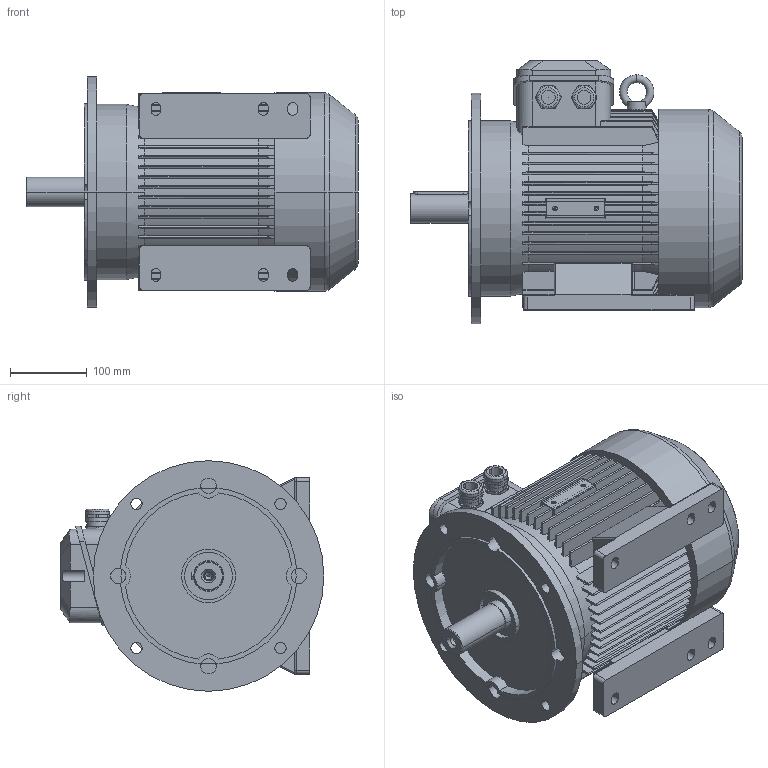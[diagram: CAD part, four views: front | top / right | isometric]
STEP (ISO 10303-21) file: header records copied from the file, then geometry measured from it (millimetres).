
FILE_DESCRIPTION (( 'STEP AP214' ), '1' );
FILE_NAME ('MAP132S6A IM2041 A300 FF265.STEP', '2021-03-08T07:33:57', ( '' ), ( '' ), 'SwSTEP 2.0', 'SolidWorks 2018', '' );
FILE_SCHEMA (( 'AUTOMOTIVE_DESIGN' ));
Length unit declared in the file: millimetre
Products named in the file (1): MAP132S6A IM2041 A300 FF265
Bounding box: 432 x 343 x 300 mm (x, y, z)
Volume: 16378801.3 mm3; surface area: 1161254.6 mm2
Topology: 1 solids, 6 shells, 939 faces, 2559 edges, 1675 vertices
Faces by surface type: plane 491, cylinder 277, cone 119, bspline 32, torus 20
Entity records: 35422 total; most frequent: CARTESIAN_POINT 12177, ORIENTED_EDGE 5114, DIRECTION 4507, EDGE_CURVE 2557, VERTEX_POINT 1675, AXIS2_PLACEMENT_3D 1559, LINE 1389, VECTOR 1389
